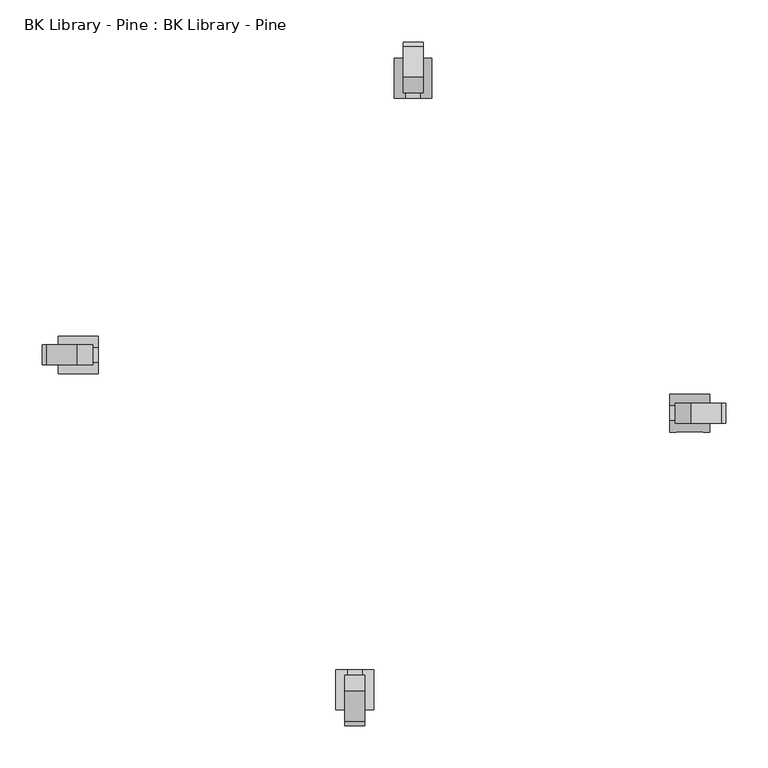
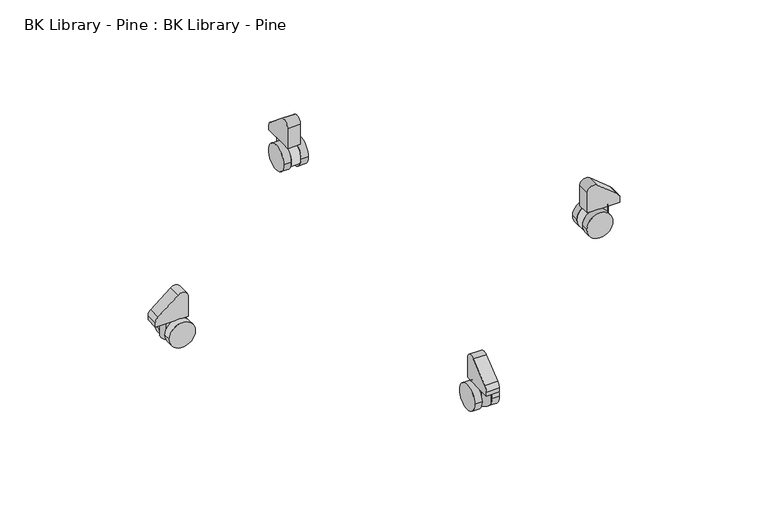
"""IFC4 building model written with IfcOpenShell, lengths in millimetres: furniture geometry, BK Library - Pine : BK Library - Pine."""

from ifc_helpers import new_model, si_unit, point, frame, frame_2d, origin, place, context, project, spatial, polyline, circle_curve, trimmed, segment, composite_curve, outline, extrude, source, transform, mapped, element, save
from ifc_brep_helpers import plane_surface, cylinder_surface, advanced_brep


def bk_library_pine_bk_library_pine_3ca1e0d4(model_context):
    return source(origin(), model_context, "Body", "SolidModel", [
        advanced_brep(
        [(-12.0, -387.0845712, 24.0), (-12.0, -341.0097124, 14.5818999), (-12.0, -339.0845712, 24.0), (-12.0, -359.165662, 47.6778831), (-25.5, -387.0845712, 24.0), (-25.5, -359.165662, 47.6778831), (-25.5, -339.0845712, 24.0), (-25.5, -341.0097124, 14.5818999)],
        [
            (0, 1, circle_curve(frame((-12.0, -363.0845712, 24.0), z_axis=(1.0, 0.0, 0.0), x_axis=(0.0, 1.0, 0.0)), 24.0)),
            (1, 2, circle_curve(frame((-12.0, -363.0845712, 24.0), z_axis=(1.0, 0.0, 0.0), x_axis=(0.0, 1.0, 0.0)), 24.0)),
            (2, 3, circle_curve(frame((-12.0, -363.0845712, 24.0), z_axis=(1.0, 0.0, 0.0), x_axis=(0.0, 1.0, 0.0)), 24.0)),
            (3, 0, circle_curve(frame((-12.0, -363.0845712, 24.0), z_axis=(1.0, 0.0, 0.0), x_axis=(0.0, 1.0, 0.0)), 24.0)),
            (4, 5, circle_curve(frame((-25.5, -363.0845712, 24.0), z_axis=(-1.0, 0.0, 0.0), x_axis=(0.0, 1.0, 0.0)), 24.0)),
            (5, 6, circle_curve(frame((-25.5, -363.0845712, 24.0), z_axis=(-1.0, 0.0, 0.0), x_axis=(0.0, 1.0, 0.0)), 24.0)),
            (6, 7, circle_curve(frame((-25.5, -363.0845712, 24.0), z_axis=(-1.0, 0.0, 0.0), x_axis=(0.0, 1.0, 0.0)), 24.0)),
            (7, 4, circle_curve(frame((-25.5, -363.0845712, 24.0), z_axis=(-1.0, 0.0, 0.0), x_axis=(0.0, 1.0, 0.0)), 24.0)),
            (0, 4),
            (6, 2),
        ],
        [
            plane_surface(frame((-12.0, -339.0845712, 24.0), z_axis=(1.0, 0.0, 0.0), x_axis=(0.0, 0.0, 1.0))),
            plane_surface(frame((-25.5, -339.0845712, 24.0), z_axis=(-1.0, 0.0, 0.0), x_axis=(0.0, 0.0, -1.0))),
            cylinder_surface(frame((-25.5, -363.0845712, 24.0), z_axis=(1.0, 0.0, 0.0), x_axis=(0.0, 1.0, 0.0)), 24.0),
        ],
        [
            (0, [[1, 2, 3, 4]]),
            (1, [[5, 6, 7, 8]]),
            (2, [[9, -8, -7, 10, -2, -1]]),
            (2, [[-9, -4, -3, -10, -6, -5]]),
        ],
    ),
        advanced_brep(
        [(-43.5, -387.0845712, 24.0), (-43.5, -341.0097124, 14.5818999), (-43.5, -339.0845712, 24.0), (-43.5, -359.165662, 47.6778831), (-57.0, -387.0845712, 24.0), (-57.0, -359.165662, 47.6778831), (-57.0, -339.0845712, 24.0), (-57.0, -341.0097124, 14.5818999)],
        [
            (0, 1, circle_curve(frame((-43.5, -363.0845712, 24.0), z_axis=(1.0, 0.0, 0.0), x_axis=(0.0, 1.0, 0.0)), 24.0)),
            (1, 2, circle_curve(frame((-43.5, -363.0845712, 24.0), z_axis=(1.0, 0.0, 0.0), x_axis=(0.0, 1.0, 0.0)), 24.0)),
            (2, 3, circle_curve(frame((-43.5, -363.0845712, 24.0), z_axis=(1.0, 0.0, 0.0), x_axis=(0.0, 1.0, 0.0)), 24.0)),
            (3, 0, circle_curve(frame((-43.5, -363.0845712, 24.0), z_axis=(1.0, 0.0, 0.0), x_axis=(0.0, 1.0, 0.0)), 24.0)),
            (4, 5, circle_curve(frame((-57.0, -363.0845712, 24.0), z_axis=(-1.0, 0.0, 0.0), x_axis=(0.0, 1.0, 0.0)), 24.0)),
            (5, 6, circle_curve(frame((-57.0, -363.0845712, 24.0), z_axis=(-1.0, 0.0, 0.0), x_axis=(0.0, 1.0, 0.0)), 24.0)),
            (6, 7, circle_curve(frame((-57.0, -363.0845712, 24.0), z_axis=(-1.0, 0.0, 0.0), x_axis=(0.0, 1.0, 0.0)), 24.0)),
            (7, 4, circle_curve(frame((-57.0, -363.0845712, 24.0), z_axis=(-1.0, 0.0, 0.0), x_axis=(0.0, 1.0, 0.0)), 24.0)),
            (0, 4),
            (6, 2),
        ],
        [
            plane_surface(frame((-43.5, -339.0845712, 24.0), z_axis=(1.0, 0.0, 0.0), x_axis=(0.0, 0.0, 1.0))),
            plane_surface(frame((-57.0, -339.0845712, 24.0), z_axis=(-1.0, 0.0, 0.0), x_axis=(0.0, 0.0, -1.0))),
            cylinder_surface(frame((-57.0, -363.0845712, 24.0), z_axis=(1.0, 0.0, 0.0), x_axis=(0.0, 1.0, 0.0)), 24.0),
        ],
        [
            (0, [[1, 2, 3, 4]]),
            (1, [[5, 6, 7, 8]]),
            (2, [[9, -8, -7, 10, -2, -1]]),
            (2, [[-9, -4, -3, -10, -6, -5]]),
        ],
    ),
        advanced_brep(
        [(-43.5, -384.4456511, 47.6778831), (-43.125, -385.4378078, 47.6778831), (-25.875, -385.4378078, 47.6778831), (-25.5, -384.4456511, 47.6778831), (-25.5, -359.165662, 47.6778831), (-43.5, -359.165662, 47.6778831), (-25.5, -384.4456511, 14.5818999), (-25.875, -385.4378078, 14.5818999), (-43.125, -385.4378078, 14.5818999), (-43.5, -384.4456511, 14.5818999), (-43.5, -341.0097124, 14.5818999), (-25.5, -341.0097124, 14.5818999)],
        [
            (0, 1, circle_curve(frame((-42.0, -384.4456511, 47.6778831), z_axis=(0.0, 0.0, 1.0), x_axis=(0.0, 1.0, 0.0)), 1.5)),
            (1, 2, circle_curve(frame((-34.5, -377.8312728, 47.6778831), z_axis=(0.0, 0.0, 1.0), x_axis=(-0.14388530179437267, 0.989594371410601, 0.0)), 11.5)),
            (2, 3, circle_curve(frame((-27.0, -384.4456511, 47.6778831), z_axis=(0.0, 0.0, 1.0), x_axis=(0.0, 1.0, 0.0)), 1.5)),
            (3, 4),
            (4, 5),
            (5, 0),
            (6, 7, circle_curve(frame((-27.0, -384.4456511, 14.5818999), z_axis=(0.0, 0.0, -1.0), x_axis=(0.0, 1.0, 0.0)), 1.5)),
            (7, 8, circle_curve(frame((-34.5, -377.8312728, 14.5818999), z_axis=(0.0, 0.0, -1.0), x_axis=(-0.14388530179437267, 0.989594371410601, 0.0)), 11.5)),
            (8, 9, circle_curve(frame((-42.0, -384.4456511, 14.5818999), z_axis=(0.0, 0.0, -1.0), x_axis=(0.0, 1.0, 0.0)), 1.5)),
            (9, 10),
            (10, 11),
            (11, 6),
            (9, 0),
            (5, 10, circle_curve(frame((-43.5, -363.0845712, 24.0), z_axis=(-1.0, 0.0, 0.0), x_axis=(0.0, 1.0, 0.0)), 24.0)),
            (1, 8),
            (7, 2),
            (3, 6),
            (11, 4, circle_curve(frame((-25.5, -363.0845712, 24.0), z_axis=(1.0, 0.0, 0.0), x_axis=(0.0, 1.0, 0.0)), 24.0)),
        ],
        [
            plane_surface(frame((-43.5, -384.9901833, 47.6778831), z_axis=(0.0, 0.0, 1.0), x_axis=(0.0, -1.0, 0.0))),
            plane_surface(frame((-43.5, -384.9901833, 14.5818999), z_axis=(0.0, 0.0, -1.0), x_axis=(0.0, 1.0, 0.0))),
            plane_surface(frame((-43.5, -338.3703709, 47.6778831), z_axis=(-1.0, 0.0, 0.0), x_axis=(0.0, 0.0, -1.0))),
            cylinder_surface(frame((-34.5, -377.8312728, 14.5818999), z_axis=(0.0, 0.0, 1.0000000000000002), x_axis=(-0.14388530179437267, 0.989594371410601, 0.0)), 11.5),
            plane_surface(frame((-25.5, -384.4456511, 47.6778831), z_axis=(1.0, 0.0, 0.0), x_axis=(0.0, 0.0, -1.0))),
            cylinder_surface(frame((-42.0, -384.4456511, 14.5818999), z_axis=(0.0, 0.0, 1.0), x_axis=(0.0, 1.0, 0.0)), 1.5),
            cylinder_surface(frame((-27.0, -384.4456511, 14.5818999), z_axis=(0.0, 0.0, 1.0), x_axis=(0.0, 1.0, 0.0)), 1.5),
            cylinder_surface(frame((-97.270464, -363.0845712, 24.0), z_axis=(-1.0, 0.0, 0.0), x_axis=(0.0, 1.0, 0.0)), 24.0),
        ],
        [
            (0, [[1, 2, 3, 4, 5, 6]]),
            (1, [[7, 8, 9, 10, 11, 12]]),
            (2, [[13, -6, 14, -10]]),
            (3, [[-2, 15, -8, 16]]),
            (4, [[17, -12, 18, -4]]),
            (5, [[-1, -13, -9, -15]]),
            (6, [[-3, -16, -7, -17]]),
            (7, [[-5, -18, -11, -14]]),
        ],
    ),
        advanced_brep(
        [(-23.0, -401.3539823, 65.3227941), (-23.0, -405.9999999, 55.5979035), (-23.0, -405.9997219, 47.6778831), (-23.0, -359.165662, 47.6778831), (-23.0, -346.0, 47.6778831), (-23.0, -346.0, 86.3778831), (-23.0, -364.4, 95.1687875), (-46.5, -401.3539823, 65.3227941), (-46.5, -364.4, 95.1687875), (-46.5, -345.9999999, 86.3778831), (-46.5, -346.0, 47.6778831), (-46.5, -359.165662, 47.6778831), (-46.5, -405.9997219, 47.6778831), (-46.5, -405.9999999, 55.5979035)],
        [
            (0, 1, circle_curve(frame((-23.0, -393.5, 55.5983424), z_axis=(1.0, 0.0, 0.0), x_axis=(0.0, 0.999999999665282, 2.587346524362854e-05)), 12.5)),
            (1, 2),
            (2, 3),
            (3, 4),
            (4, 5),
            (5, 6, circle_curve(frame((-23.0, -357.2999999, 86.3778831), z_axis=(1.0, 0.0, 0.0), x_axis=(0.0, 0.999999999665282, 2.5873465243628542e-05)), 11.3)),
            (6, 0),
            (7, 8),
            (8, 9, circle_curve(frame((-46.5, -357.2999999, 86.3778831), z_axis=(-1.0, 0.0, 0.0), x_axis=(0.0, 0.999999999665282, 2.5873465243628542e-05)), 11.3)),
            (9, 10),
            (10, 11),
            (11, 12),
            (12, 13),
            (13, 7, circle_curve(frame((-46.5, -393.5, 55.5983424), z_axis=(-1.0, 0.0, 0.0), x_axis=(0.0, 0.999999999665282, 2.587346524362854e-05)), 12.5)),
            (0, 7),
            (13, 1),
            (12, 2),
            (10, 4),
            (9, 5),
            (8, 6),
        ],
        [
            plane_surface(frame((-23.0, -381.0, 55.5986658), z_axis=(1.0000000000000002, 0.0, 0.0), x_axis=(0.0, -2.5873465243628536e-05, 0.999999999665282))),
            plane_surface(frame((-46.5, -381.0, 55.5986658), z_axis=(-1.0000000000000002, 0.0, 0.0), x_axis=(0.0, 2.5873465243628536e-05, -0.999999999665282))),
            cylinder_surface(frame((-46.5, -393.5, 55.5983424), z_axis=(1.0000000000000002, 0.0, 0.0), x_axis=(0.0, 0.999999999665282, 2.587346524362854e-05)), 12.5),
            plane_surface(frame((-23.0, -405.9999999, 55.5979035), z_axis=(0.0, -0.9999999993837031, -3.510831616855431e-05), x_axis=(-1.0, 0.0, 0.0))),
            plane_surface(frame((-23.0, -405.9997219, 47.6778831), z_axis=(0.0, 0.0, -1.0), x_axis=(-1.0, 0.0, 0.0))),
            plane_surface(frame((-23.0, -346.0, 47.6778831), z_axis=(0.0, 1.0, 0.0), x_axis=(-1.0, 0.0, 0.0))),
            cylinder_surface(frame((-46.5, -357.2999999, 86.3778831), z_axis=(1.0000000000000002, 0.0, 0.0), x_axis=(0.0, 0.999999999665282, 2.5873465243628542e-05)), 11.3),
            plane_surface(frame((-23.0, -364.4, 95.1687875), z_axis=(0.0, -0.6283185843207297, 0.7779561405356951), x_axis=(-1.0, 0.0, 0.0))),
        ],
        [
            (0, [[1, 2, 3, 4, 5, 6, 7]]),
            (1, [[8, 9, 10, 11, 12, 13, 14]]),
            (2, [[-1, 15, -14, 16]]),
            (3, [[-2, -16, -13, 17]]),
            (4, [[-17, -12, -11, 18, -4, -3]]),
            (5, [[-5, -18, -10, 19]]),
            (6, [[-6, -19, -9, 20]]),
            (7, [[-7, -20, -8, -15]]),
        ],
    ),
        advanced_brep(
        [(387.0845712, -12.0, 24.0), (341.0097124, -12.0, 14.5818999), (339.0845712, -12.0, 24.0), (359.165662, -12.0, 47.6778831), (387.0845712, -25.5, 24.0), (359.165662, -25.5, 47.6778831), (339.0845712, -25.5, 24.0), (341.0097124, -25.5, 14.5818999)],
        [
            (0, 1, circle_curve(frame((363.0845712, -12.0, 24.0), z_axis=(0.0, 1.0, 0.0), x_axis=(-1.0, 0.0, 0.0)), 24.0)),
            (1, 2, circle_curve(frame((363.0845712, -12.0, 24.0), z_axis=(0.0, 1.0, 0.0), x_axis=(-1.0, 0.0, 0.0)), 24.0)),
            (2, 3, circle_curve(frame((363.0845712, -12.0, 24.0), z_axis=(0.0, 1.0, 0.0), x_axis=(-1.0, 0.0, 0.0)), 24.0)),
            (3, 0, circle_curve(frame((363.0845712, -12.0, 24.0), z_axis=(0.0, 1.0, 0.0), x_axis=(-1.0, 0.0, 0.0)), 24.0)),
            (4, 5, circle_curve(frame((363.0845712, -25.5, 24.0), z_axis=(0.0, -1.0, 0.0), x_axis=(-1.0, 0.0, 0.0)), 24.0)),
            (5, 6, circle_curve(frame((363.0845712, -25.5, 24.0), z_axis=(0.0, -1.0, 0.0), x_axis=(-1.0, 0.0, 0.0)), 24.0)),
            (6, 7, circle_curve(frame((363.0845712, -25.5, 24.0), z_axis=(0.0, -1.0, 0.0), x_axis=(-1.0, 0.0, 0.0)), 24.0)),
            (7, 4, circle_curve(frame((363.0845712, -25.5, 24.0), z_axis=(0.0, -1.0, 0.0), x_axis=(-1.0, 0.0, 0.0)), 24.0)),
            (0, 4),
            (6, 2),
        ],
        [
            plane_surface(frame((339.0845712, -12.0, 24.0), z_axis=(0.0, 1.0, 0.0), x_axis=(0.0, 0.0, 1.0))),
            plane_surface(frame((339.0845712, -25.5, 24.0), z_axis=(0.0, -1.0, 0.0), x_axis=(0.0, 0.0, -1.0))),
            cylinder_surface(frame((363.0845712, -25.5, 24.0), z_axis=(0.0, 1.0, 0.0), x_axis=(-1.0, 0.0, 0.0)), 24.0),
        ],
        [
            (0, [[1, 2, 3, 4]]),
            (1, [[5, 6, 7, 8]]),
            (2, [[9, -8, -7, 10, -2, -1]]),
            (2, [[-9, -4, -3, -10, -6, -5]]),
        ],
    ),
        advanced_brep(
        [(387.0845712, -43.5, 24.0), (341.0097124, -43.5, 14.5818999), (339.0845712, -43.5, 24.0), (359.165662, -43.5, 47.6778831), (387.0845712, -57.0, 24.0), (359.165662, -57.0, 47.6778831), (339.0845712, -57.0, 24.0), (341.0097124, -57.0, 14.5818999)],
        [
            (0, 1, circle_curve(frame((363.0845712, -43.5, 24.0), z_axis=(0.0, 1.0, 0.0), x_axis=(-1.0, 0.0, 0.0)), 24.0)),
            (1, 2, circle_curve(frame((363.0845712, -43.5, 24.0), z_axis=(0.0, 1.0, 0.0), x_axis=(-1.0, 0.0, 0.0)), 24.0)),
            (2, 3, circle_curve(frame((363.0845712, -43.5, 24.0), z_axis=(0.0, 1.0, 0.0), x_axis=(-1.0, 0.0, 0.0)), 24.0)),
            (3, 0, circle_curve(frame((363.0845712, -43.5, 24.0), z_axis=(0.0, 1.0, 0.0), x_axis=(-1.0, 0.0, 0.0)), 24.0)),
            (4, 5, circle_curve(frame((363.0845712, -57.0, 24.0), z_axis=(0.0, -1.0, 0.0), x_axis=(-1.0, 0.0, 0.0)), 24.0)),
            (5, 6, circle_curve(frame((363.0845712, -57.0, 24.0), z_axis=(0.0, -1.0, 0.0), x_axis=(-1.0, 0.0, 0.0)), 24.0)),
            (6, 7, circle_curve(frame((363.0845712, -57.0, 24.0), z_axis=(0.0, -1.0, 0.0), x_axis=(-1.0, 0.0, 0.0)), 24.0)),
            (7, 4, circle_curve(frame((363.0845712, -57.0, 24.0), z_axis=(0.0, -1.0, 0.0), x_axis=(-1.0, 0.0, 0.0)), 24.0)),
            (0, 4),
            (6, 2),
        ],
        [
            plane_surface(frame((339.0845712, -43.5, 24.0), z_axis=(0.0, 1.0, 0.0), x_axis=(0.0, 0.0, 1.0))),
            plane_surface(frame((339.0845712, -57.0, 24.0), z_axis=(0.0, -1.0, 0.0), x_axis=(0.0, 0.0, -1.0))),
            cylinder_surface(frame((363.0845712, -57.0, 24.0), z_axis=(0.0, 1.0, 0.0), x_axis=(-1.0, 0.0, 0.0)), 24.0),
        ],
        [
            (0, [[1, 2, 3, 4]]),
            (1, [[5, 6, 7, 8]]),
            (2, [[9, -8, -7, 10, -2, -1]]),
            (2, [[-9, -4, -3, -10, -6, -5]]),
        ],
    ),
        advanced_brep(
        [(384.4456511, -43.5, 47.6778831), (385.4378078, -43.125, 47.6778831), (385.4378078, -25.875, 47.6778831), (384.4456511, -25.5, 47.6778831), (359.165662, -25.5, 47.6778831), (359.165662, -43.5, 47.6778831), (384.4456511, -25.5, 14.5818999), (385.4378078, -25.875, 14.5818999), (385.4378078, -43.125, 14.5818999), (384.4456511, -43.5, 14.5818999), (341.0097124, -43.5, 14.5818999), (341.0097124, -25.5, 14.5818999)],
        [
            (0, 1, circle_curve(frame((384.4456511, -42.0, 47.6778831), z_axis=(0.0, 0.0, 1.0), x_axis=(-1.0, 0.0, 0.0)), 1.5)),
            (1, 2, circle_curve(frame((377.8312728, -34.5, 47.6778831), z_axis=(0.0, 0.0, 1.0), x_axis=(-0.9895943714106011, -0.14388530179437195, 0.0)), 11.5)),
            (2, 3, circle_curve(frame((384.4456511, -27.0, 47.6778831), z_axis=(0.0, 0.0, 1.0), x_axis=(-1.0, 0.0, 0.0)), 1.5)),
            (3, 4),
            (4, 5),
            (5, 0),
            (6, 7, circle_curve(frame((384.4456511, -27.0, 14.5818999), z_axis=(0.0, 0.0, -1.0), x_axis=(-1.0, 0.0, 0.0)), 1.5)),
            (7, 8, circle_curve(frame((377.8312728, -34.5, 14.5818999), z_axis=(0.0, 0.0, -1.0), x_axis=(-0.9895943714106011, -0.14388530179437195, 0.0)), 11.5)),
            (8, 9, circle_curve(frame((384.4456511, -42.0, 14.5818999), z_axis=(0.0, 0.0, -1.0), x_axis=(-1.0, 0.0, 0.0)), 1.5)),
            (9, 10),
            (10, 11),
            (11, 6),
            (9, 0),
            (5, 10, circle_curve(frame((363.0845712, -43.5, 24.0), z_axis=(0.0, -1.0, 0.0), x_axis=(-1.0, 0.0, 0.0)), 24.0)),
            (1, 8),
            (7, 2),
            (3, 6),
            (11, 4, circle_curve(frame((363.0845712, -25.5, 24.0), z_axis=(0.0, 1.0, 0.0), x_axis=(-1.0, 0.0, 0.0)), 24.0)),
        ],
        [
            plane_surface(frame((384.9901833, -43.5, 47.6778831), z_axis=(0.0, 0.0, 1.0), x_axis=(1.0, 0.0, 0.0))),
            plane_surface(frame((384.9901833, -43.5, 14.5818999), z_axis=(0.0, 0.0, -1.0), x_axis=(-1.0, 0.0, 0.0))),
            plane_surface(frame((338.3703709, -43.5, 47.6778831), z_axis=(0.0, -1.0, 0.0), x_axis=(0.0, 0.0, -1.0))),
            cylinder_surface(frame((377.8312728, -34.5, 14.5818999), z_axis=(0.0, 0.0, 1.0000000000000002), x_axis=(-0.9895943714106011, -0.14388530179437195, 0.0)), 11.5),
            plane_surface(frame((384.4456511, -25.5, 47.6778831), z_axis=(0.0, 1.0, 0.0), x_axis=(0.0, 0.0, -1.0))),
            cylinder_surface(frame((384.4456511, -42.0, 14.5818999), z_axis=(0.0, 0.0, 1.0), x_axis=(-1.0, 0.0, 0.0)), 1.5),
            cylinder_surface(frame((384.4456511, -27.0, 14.5818999), z_axis=(0.0, 0.0, 1.0), x_axis=(-1.0, 0.0, 0.0)), 1.5),
            cylinder_surface(frame((363.0845712, -97.270464, 24.0), z_axis=(0.0, -1.0, 0.0), x_axis=(-1.0, 0.0, 0.0)), 24.0),
        ],
        [
            (0, [[1, 2, 3, 4, 5, 6]]),
            (1, [[7, 8, 9, 10, 11, 12]]),
            (2, [[13, -6, 14, -10]]),
            (3, [[-2, 15, -8, 16]]),
            (4, [[17, -12, 18, -4]]),
            (5, [[-1, -13, -9, -15]]),
            (6, [[-3, -16, -7, -17]]),
            (7, [[-5, -18, -11, -14]]),
        ],
    ),
        advanced_brep(
        [(401.3539823, -23.0, 65.3227941), (405.9999999, -23.0, 55.5979035), (405.9997219, -23.0, 47.6778831), (359.165662, -23.0, 47.6778831), (346.0, -23.0, 47.6778831), (346.0, -23.0, 86.3778831), (364.4, -23.0, 95.1687875), (401.3539823, -46.5, 65.3227941), (364.4, -46.5, 95.1687875), (345.9999999, -46.5, 86.3778831), (346.0, -46.5, 47.6778831), (359.165662, -46.5, 47.6778831), (405.9997219, -46.5, 47.6778831), (405.9999999, -46.5, 55.5979035)],
        [
            (0, 1, circle_curve(frame((393.5, -23.0, 55.5983424), z_axis=(0.0, 1.0, 0.0), x_axis=(-0.999999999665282, 0.0, 2.587346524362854e-05)), 12.5)),
            (1, 2),
            (2, 3),
            (3, 4),
            (4, 5),
            (5, 6, circle_curve(frame((357.2999999, -23.0, 86.3778831), z_axis=(0.0, 1.0, 0.0), x_axis=(-0.999999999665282, 0.0, 2.5873465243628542e-05)), 11.3)),
            (6, 0),
            (7, 8),
            (8, 9, circle_curve(frame((357.2999999, -46.5, 86.3778831), z_axis=(0.0, -1.0, 0.0), x_axis=(-0.999999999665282, 0.0, 2.5873465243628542e-05)), 11.3)),
            (9, 10),
            (10, 11),
            (11, 12),
            (12, 13),
            (13, 7, circle_curve(frame((393.5, -46.5, 55.5983424), z_axis=(0.0, -1.0, 0.0), x_axis=(-0.999999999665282, 0.0, 2.587346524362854e-05)), 12.5)),
            (0, 7),
            (13, 1),
            (12, 2),
            (10, 4),
            (9, 5),
            (8, 6),
        ],
        [
            plane_surface(frame((381.0, -23.0, 55.5986658), z_axis=(0.0, 1.0000000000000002, 0.0), x_axis=(2.5873465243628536e-05, 0.0, 0.999999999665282))),
            plane_surface(frame((381.0, -46.5, 55.5986658), z_axis=(0.0, -1.0000000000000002, 0.0), x_axis=(-2.5873465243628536e-05, 0.0, -0.999999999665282))),
            cylinder_surface(frame((393.5, -46.5, 55.5983424), z_axis=(0.0, 1.0000000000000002, 0.0), x_axis=(-0.999999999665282, 0.0, 2.587346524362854e-05)), 12.5),
            plane_surface(frame((405.9999999, -23.0, 55.5979035), z_axis=(0.9999999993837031, 0.0, -3.510831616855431e-05), x_axis=(0.0, -1.0, 0.0))),
            plane_surface(frame((405.9997219, -23.0, 47.6778831), z_axis=(0.0, 0.0, -1.0), x_axis=(0.0, -1.0, 0.0))),
            plane_surface(frame((346.0, -23.0, 47.6778831), z_axis=(-1.0, 0.0, 0.0), x_axis=(0.0, -1.0, 0.0))),
            cylinder_surface(frame((357.2999999, -46.5, 86.3778831), z_axis=(0.0, 1.0000000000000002, 0.0), x_axis=(-0.999999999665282, 0.0, 2.5873465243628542e-05)), 11.3),
            plane_surface(frame((364.4, -23.0, 95.1687875), z_axis=(0.6283185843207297, 0.0, 0.7779561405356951), x_axis=(0.0, -1.0, 0.0))),
        ],
        [
            (0, [[1, 2, 3, 4, 5, 6, 7]]),
            (1, [[8, 9, 10, 11, 12, 13, 14]]),
            (2, [[-1, 15, -14, 16]]),
            (3, [[-2, -16, -13, 17]]),
            (4, [[-17, -12, -11, 18, -4, -3]]),
            (5, [[-5, -18, -10, 19]]),
            (6, [[-6, -19, -9, 20]]),
            (7, [[-7, -20, -8, -15]]),
        ],
    ),
        advanced_brep(
        [(12.0, 387.0845712, 24.0), (12.0, 341.0097124, 14.5818999), (12.0, 339.0845712, 24.0), (12.0, 359.165662, 47.6778831), (25.5, 387.0845712, 24.0), (25.5, 359.165662, 47.6778831), (25.5, 339.0845712, 24.0), (25.5, 341.0097124, 14.5818999)],
        [
            (0, 1, circle_curve(frame((12.0, 363.0845712, 24.0), z_axis=(-1.0, 0.0, 0.0), x_axis=(0.0, -1.0, 0.0)), 24.0)),
            (1, 2, circle_curve(frame((12.0, 363.0845712, 24.0), z_axis=(-1.0, 0.0, 0.0), x_axis=(0.0, -1.0, 0.0)), 24.0)),
            (2, 3, circle_curve(frame((12.0, 363.0845712, 24.0), z_axis=(-1.0, 0.0, 0.0), x_axis=(0.0, -1.0, 0.0)), 24.0)),
            (3, 0, circle_curve(frame((12.0, 363.0845712, 24.0), z_axis=(-1.0, 0.0, 0.0), x_axis=(0.0, -1.0, 0.0)), 24.0)),
            (4, 5, circle_curve(frame((25.5, 363.0845712, 24.0), z_axis=(1.0, 0.0, 0.0), x_axis=(0.0, -1.0, 0.0)), 24.0)),
            (5, 6, circle_curve(frame((25.5, 363.0845712, 24.0), z_axis=(1.0, 0.0, 0.0), x_axis=(0.0, -1.0, 0.0)), 24.0)),
            (6, 7, circle_curve(frame((25.5, 363.0845712, 24.0), z_axis=(1.0, 0.0, 0.0), x_axis=(0.0, -1.0, 0.0)), 24.0)),
            (7, 4, circle_curve(frame((25.5, 363.0845712, 24.0), z_axis=(1.0, 0.0, 0.0), x_axis=(0.0, -1.0, 0.0)), 24.0)),
            (0, 4),
            (6, 2),
        ],
        [
            plane_surface(frame((12.0, 339.0845712, 24.0), z_axis=(-1.0, 0.0, 0.0), x_axis=(0.0, 0.0, 1.0))),
            plane_surface(frame((25.5, 339.0845712, 24.0), z_axis=(1.0, 0.0, 0.0), x_axis=(0.0, 0.0, -1.0))),
            cylinder_surface(frame((25.5, 363.0845712, 24.0), z_axis=(-1.0, 0.0, 0.0), x_axis=(0.0, -1.0, 0.0)), 24.0),
        ],
        [
            (0, [[1, 2, 3, 4]]),
            (1, [[5, 6, 7, 8]]),
            (2, [[9, -8, -7, 10, -2, -1]]),
            (2, [[-9, -4, -3, -10, -6, -5]]),
        ],
    ),
        advanced_brep(
        [(43.5, 387.0845712, 24.0), (43.5, 341.0097124, 14.5818999), (43.5, 339.0845712, 24.0), (43.5, 359.165662, 47.6778831), (57.0, 387.0845712, 24.0), (57.0, 359.165662, 47.6778831), (57.0, 339.0845712, 24.0), (57.0, 341.0097124, 14.5818999)],
        [
            (0, 1, circle_curve(frame((43.5, 363.0845712, 24.0), z_axis=(-1.0, 0.0, 0.0), x_axis=(0.0, -1.0, 0.0)), 24.0)),
            (1, 2, circle_curve(frame((43.5, 363.0845712, 24.0), z_axis=(-1.0, 0.0, 0.0), x_axis=(0.0, -1.0, 0.0)), 24.0)),
            (2, 3, circle_curve(frame((43.5, 363.0845712, 24.0), z_axis=(-1.0, 0.0, 0.0), x_axis=(0.0, -1.0, 0.0)), 24.0)),
            (3, 0, circle_curve(frame((43.5, 363.0845712, 24.0), z_axis=(-1.0, 0.0, 0.0), x_axis=(0.0, -1.0, 0.0)), 24.0)),
            (4, 5, circle_curve(frame((57.0, 363.0845712, 24.0), z_axis=(1.0, 0.0, 0.0), x_axis=(0.0, -1.0, 0.0)), 24.0)),
            (5, 6, circle_curve(frame((57.0, 363.0845712, 24.0), z_axis=(1.0, 0.0, 0.0), x_axis=(0.0, -1.0, 0.0)), 24.0)),
            (6, 7, circle_curve(frame((57.0, 363.0845712, 24.0), z_axis=(1.0, 0.0, 0.0), x_axis=(0.0, -1.0, 0.0)), 24.0)),
            (7, 4, circle_curve(frame((57.0, 363.0845712, 24.0), z_axis=(1.0, 0.0, 0.0), x_axis=(0.0, -1.0, 0.0)), 24.0)),
            (0, 4),
            (6, 2),
        ],
        [
            plane_surface(frame((43.5, 339.0845712, 24.0), z_axis=(-1.0, 0.0, 0.0), x_axis=(0.0, 0.0, 1.0))),
            plane_surface(frame((57.0, 339.0845712, 24.0), z_axis=(1.0, 0.0, 0.0), x_axis=(0.0, 0.0, -1.0))),
            cylinder_surface(frame((57.0, 363.0845712, 24.0), z_axis=(-1.0, 0.0, 0.0), x_axis=(0.0, -1.0, 0.0)), 24.0),
        ],
        [
            (0, [[1, 2, 3, 4]]),
            (1, [[5, 6, 7, 8]]),
            (2, [[9, -8, -7, 10, -2, -1]]),
            (2, [[-9, -4, -3, -10, -6, -5]]),
        ],
    ),
        advanced_brep(
        [(43.5, 384.4456511, 47.6778831), (43.125, 385.4378078, 47.6778831), (25.875, 385.4378078, 47.6778831), (25.5, 384.4456511, 47.6778831), (25.5, 359.165662, 47.6778831), (43.5, 359.165662, 47.6778831), (25.5, 384.4456511, 14.5818999), (25.875, 385.4378078, 14.5818999), (43.125, 385.4378078, 14.5818999), (43.5, 384.4456511, 14.5818999), (43.5, 341.0097124, 14.5818999), (25.5, 341.0097124, 14.5818999)],
        [
            (0, 1, circle_curve(frame((42.0, 384.4456511, 47.6778831), z_axis=(0.0, 0.0, 1.0), x_axis=(0.0, -1.0, 0.0)), 1.5)),
            (1, 2, circle_curve(frame((34.5, 377.8312728, 47.6778831), z_axis=(0.0, 0.0, 1.0), x_axis=(0.14388530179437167, -0.9895943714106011, 0.0)), 11.5)),
            (2, 3, circle_curve(frame((27.0, 384.4456511, 47.6778831), z_axis=(0.0, 0.0, 1.0), x_axis=(0.0, -1.0, 0.0)), 1.5)),
            (3, 4),
            (4, 5),
            (5, 0),
            (6, 7, circle_curve(frame((27.0, 384.4456511, 14.5818999), z_axis=(0.0, 0.0, -1.0), x_axis=(0.0, -1.0, 0.0)), 1.5)),
            (7, 8, circle_curve(frame((34.5, 377.8312728, 14.5818999), z_axis=(0.0, 0.0, -1.0), x_axis=(0.14388530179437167, -0.9895943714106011, 0.0)), 11.5)),
            (8, 9, circle_curve(frame((42.0, 384.4456511, 14.5818999), z_axis=(0.0, 0.0, -1.0), x_axis=(0.0, -1.0, 0.0)), 1.5)),
            (9, 10),
            (10, 11),
            (11, 6),
            (9, 0),
            (5, 10, circle_curve(frame((43.5, 363.0845712, 24.0), z_axis=(1.0, 0.0, 0.0), x_axis=(0.0, -1.0, 0.0)), 24.0)),
            (1, 8),
            (7, 2),
            (3, 6),
            (11, 4, circle_curve(frame((25.5, 363.0845712, 24.0), z_axis=(-1.0, 0.0, 0.0), x_axis=(0.0, -1.0, 0.0)), 24.0)),
        ],
        [
            plane_surface(frame((43.5, 384.9901833, 47.6778831), z_axis=(0.0, 0.0, 1.0), x_axis=(0.0, 1.0, 0.0))),
            plane_surface(frame((43.5, 384.9901833, 14.5818999), z_axis=(0.0, 0.0, -1.0), x_axis=(0.0, -1.0, 0.0))),
            plane_surface(frame((43.5, 338.3703709, 47.6778831), z_axis=(1.0, 0.0, 0.0), x_axis=(0.0, 0.0, -1.0))),
            cylinder_surface(frame((34.5, 377.8312728, 14.5818999), z_axis=(0.0, 0.0, 1.0000000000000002), x_axis=(0.14388530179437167, -0.9895943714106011, 0.0)), 11.5),
            plane_surface(frame((25.5, 384.4456511, 47.6778831), z_axis=(-1.0, 0.0, 0.0), x_axis=(0.0, 0.0, -1.0))),
            cylinder_surface(frame((42.0, 384.4456511, 14.5818999), z_axis=(0.0, 0.0, 1.0), x_axis=(0.0, -1.0, 0.0)), 1.5),
            cylinder_surface(frame((27.0, 384.4456511, 14.5818999), z_axis=(0.0, 0.0, 1.0), x_axis=(0.0, -1.0, 0.0)), 1.5),
            cylinder_surface(frame((97.270464, 363.0845712, 24.0), z_axis=(1.0, 0.0, 0.0), x_axis=(0.0, -1.0, 0.0)), 24.0),
        ],
        [
            (0, [[1, 2, 3, 4, 5, 6]]),
            (1, [[7, 8, 9, 10, 11, 12]]),
            (2, [[13, -6, 14, -10]]),
            (3, [[-2, 15, -8, 16]]),
            (4, [[17, -12, 18, -4]]),
            (5, [[-1, -13, -9, -15]]),
            (6, [[-3, -16, -7, -17]]),
            (7, [[-5, -18, -11, -14]]),
        ],
    ),
        advanced_brep(
        [(23.0, 401.3539823, 65.3227941), (23.0, 405.9999999, 55.5979035), (23.0, 405.9997219, 47.6778831), (23.0, 359.165662, 47.6778831), (23.0, 346.0, 47.6778831), (23.0, 346.0, 86.3778831), (23.0, 364.4, 95.1687875), (46.5, 401.3539823, 65.3227941), (46.5, 364.4, 95.1687875), (46.5, 345.9999999, 86.3778831), (46.5, 346.0, 47.6778831), (46.5, 359.165662, 47.6778831), (46.5, 405.9997219, 47.6778831), (46.5, 405.9999999, 55.5979035)],
        [
            (0, 1, circle_curve(frame((23.0, 393.5, 55.5983424), z_axis=(-1.0, 0.0, 0.0), x_axis=(0.0, -0.999999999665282, 2.587346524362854e-05)), 12.5)),
            (1, 2),
            (2, 3),
            (3, 4),
            (4, 5),
            (5, 6, circle_curve(frame((23.0, 357.2999999, 86.3778831), z_axis=(-1.0, 0.0, 0.0), x_axis=(0.0, -0.999999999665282, 2.5873465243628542e-05)), 11.3)),
            (6, 0),
            (7, 8),
            (8, 9, circle_curve(frame((46.5, 357.2999999, 86.3778831), z_axis=(1.0, 0.0, 0.0), x_axis=(0.0, -0.999999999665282, 2.5873465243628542e-05)), 11.3)),
            (9, 10),
            (10, 11),
            (11, 12),
            (12, 13),
            (13, 7, circle_curve(frame((46.5, 393.5, 55.5983424), z_axis=(1.0, 0.0, 0.0), x_axis=(0.0, -0.999999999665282, 2.587346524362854e-05)), 12.5)),
            (0, 7),
            (13, 1),
            (12, 2),
            (10, 4),
            (9, 5),
            (8, 6),
        ],
        [
            plane_surface(frame((23.0, 381.0, 55.5986658), z_axis=(-1.0000000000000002, 0.0, 0.0), x_axis=(0.0, 2.5873465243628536e-05, 0.999999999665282))),
            plane_surface(frame((46.5, 381.0, 55.5986658), z_axis=(1.0000000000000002, 0.0, 0.0), x_axis=(0.0, -2.5873465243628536e-05, -0.999999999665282))),
            cylinder_surface(frame((46.5, 393.5, 55.5983424), z_axis=(-1.0000000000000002, 0.0, 0.0), x_axis=(0.0, -0.999999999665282, 2.587346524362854e-05)), 12.5),
            plane_surface(frame((23.0, 405.9999999, 55.5979035), z_axis=(0.0, 0.9999999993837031, -3.510831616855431e-05), x_axis=(1.0, 0.0, 0.0))),
            plane_surface(frame((23.0, 405.9997219, 47.6778831), z_axis=(0.0, 0.0, -1.0), x_axis=(1.0, 0.0, 0.0))),
            plane_surface(frame((23.0, 346.0, 47.6778831), z_axis=(0.0, -1.0, 0.0), x_axis=(1.0, 0.0, 0.0))),
            cylinder_surface(frame((46.5, 357.2999999, 86.3778831), z_axis=(-1.0000000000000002, 0.0, 0.0), x_axis=(0.0, -0.999999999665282, 2.5873465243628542e-05)), 11.3),
            plane_surface(frame((23.0, 364.4, 95.1687875), z_axis=(0.0, 0.6283185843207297, 0.7779561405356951), x_axis=(1.0, 0.0, 0.0))),
        ],
        [
            (0, [[1, 2, 3, 4, 5, 6, 7]]),
            (1, [[8, 9, 10, 11, 12, 13, 14]]),
            (2, [[-1, 15, -14, 16]]),
            (3, [[-2, -16, -13, 17]]),
            (4, [[-17, -12, -11, 18, -4, -3]]),
            (5, [[-5, -18, -10, 19]]),
            (6, [[-6, -19, -9, 20]]),
            (7, [[-7, -20, -8, -15]]),
        ],
    ),
        extrude(outline(composite_curve([segment(trimmed(circle_curve(frame_2d((24.0, -363.0845712)), 24.0), [point((24.0, -387.0845712))], [point((24.0, -339.0845712))], False, "CARTESIAN"), True, "CONTINUOUS"), segment(trimmed(circle_curve(frame_2d((24.0, -363.0845712)), 24.0), [point((24.0, -339.0845712))], [point((24.0, -387.0845712))], False, "CARTESIAN"), True, "CONTINUOUS")], self_intersect=False)), frame((0.0, 12.0, 0.0), z_axis=(0.0, 1.0, 0.0), x_axis=(0.0, 0.0, 1.0)), (0.0, 0.0, 1.0), 13.5),
        extrude(outline(composite_curve([segment(trimmed(circle_curve(frame_2d((24.0, -363.0845712)), 24.0), [point((24.0, -387.0845712))], [point((24.0, -339.0845712))], False, "CARTESIAN"), True, "CONTINUOUS"), segment(trimmed(circle_curve(frame_2d((24.0, -363.0845712)), 24.0), [point((24.0, -339.0845712))], [point((24.0, -387.0845712))], False, "CARTESIAN"), True, "CONTINUOUS")], self_intersect=False)), frame((0.0, 43.5, 0.0), z_axis=(0.0, 1.0, 0.0), x_axis=(0.0, 0.0, 1.0)), (0.0, 0.0, 1.0), 13.5),
        extrude(outline(composite_curve([segment(trimmed(circle_curve(frame_2d((55.5983424, -393.5)), 12.5), [point((65.3227941, -401.3539823))], [point((55.5979035, -405.9999999))], False, "CARTESIAN"), True, "CONTINUOUS"), segment(polyline([(55.5979035, -405.9999999), (47.6778831, -405.9997219), (47.6778831, -346.0), (86.3778831, -346.0)]), True, "CONTINUOUS"), segment(trimmed(circle_curve(frame_2d((86.3778831, -357.2999999)), 11.3), [point((86.3778831, -346.0))], [point((95.1687875, -364.4))], False, "CARTESIAN"), True, "CONTINUOUS"), segment(polyline([(95.1687875, -364.4), (65.3227941, -401.3539823)]), True, "CONTINUOUS")], self_intersect=False)), frame((0.0, 23.0, 0.0), z_axis=(0.0, 1.0, 0.0), x_axis=(0.0, 0.0, 1.0)), (0.0, 0.0, 1.0), 23.5),
        advanced_brep(
        [(-384.4456511, 43.5, 47.6778831), (-385.4378078, 43.125, 47.6778831), (-385.4378078, 25.875, 47.6778831), (-384.4456511, 25.5, 47.6778831), (-359.165662, 25.5, 47.6778831), (-359.165662, 43.5, 47.6778831), (-384.4456511, 25.5, 14.5818999), (-385.4378078, 25.875, 14.5818999), (-385.4378078, 43.125, 14.5818999), (-384.4456511, 43.5, 14.5818999), (-341.0097124, 43.5, 14.5818999), (-341.0097124, 25.5, 14.5818999)],
        [
            (0, 1, circle_curve(frame((-384.4456511, 42.0, 47.6778831), z_axis=(0.0, 0.0, 1.0), x_axis=(1.0, 0.0, 0.0)), 1.5)),
            (1, 2, circle_curve(frame((-377.8312728, 34.5, 47.6778831), z_axis=(0.0, 0.0, 1.0), x_axis=(0.989594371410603, 0.14388530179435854, 0.0)), 11.5)),
            (2, 3, circle_curve(frame((-384.4456511, 27.0, 47.6778831), z_axis=(0.0, 0.0, 1.0), x_axis=(1.0, 0.0, 0.0)), 1.5)),
            (3, 4),
            (4, 5),
            (5, 0),
            (6, 7, circle_curve(frame((-384.4456511, 27.0, 14.5818999), z_axis=(0.0, 0.0, -1.0), x_axis=(1.0, 0.0, 0.0)), 1.5)),
            (7, 8, circle_curve(frame((-377.8312728, 34.5, 14.5818999), z_axis=(0.0, 0.0, -1.0), x_axis=(0.989594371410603, 0.14388530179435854, 0.0)), 11.5)),
            (8, 9, circle_curve(frame((-384.4456511, 42.0, 14.5818999), z_axis=(0.0, 0.0, -1.0), x_axis=(1.0, 0.0, 0.0)), 1.5)),
            (9, 10),
            (10, 11),
            (11, 6),
            (9, 0),
            (5, 10, circle_curve(frame((-363.0845712, 43.5, 24.0), z_axis=(0.0, 1.0, 0.0), x_axis=(1.0, 0.0, 0.0)), 24.0)),
            (1, 8),
            (7, 2),
            (3, 6),
            (11, 4, circle_curve(frame((-363.0845712, 25.5, 24.0), z_axis=(0.0, -1.0, 0.0), x_axis=(1.0, 0.0, 0.0)), 24.0)),
        ],
        [
            plane_surface(frame((-384.9901833, 43.5, 47.6778831), z_axis=(0.0, 0.0, 1.0), x_axis=(-1.0, 0.0, 0.0))),
            plane_surface(frame((-384.9901833, 43.5, 14.5818999), z_axis=(0.0, 0.0, -1.0), x_axis=(1.0, 0.0, 0.0))),
            plane_surface(frame((-338.3703709, 43.5, 47.6778831), z_axis=(0.0, 1.0, 0.0), x_axis=(0.0, 0.0, -1.0))),
            cylinder_surface(frame((-377.8312728, 34.5, 14.5818999), z_axis=(0.0, 0.0, 1.0000000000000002), x_axis=(0.989594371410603, 0.14388530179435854, 0.0)), 11.5),
            plane_surface(frame((-384.4456511, 25.5, 47.6778831), z_axis=(0.0, -1.0, 0.0), x_axis=(0.0, 0.0, -1.0))),
            cylinder_surface(frame((-384.4456511, 42.0, 14.5818999), z_axis=(0.0, 0.0, 1.0), x_axis=(1.0, 0.0, 0.0)), 1.5),
            cylinder_surface(frame((-384.4456511, 27.0, 14.5818999), z_axis=(0.0, 0.0, 1.0), x_axis=(1.0, 0.0, 0.0)), 1.5),
            cylinder_surface(frame((-363.0845712, 97.270464, 24.0), z_axis=(0.0, 1.0, 0.0), x_axis=(1.0, 0.0, 0.0)), 24.0),
        ],
        [
            (0, [[1, 2, 3, 4, 5, 6]]),
            (1, [[7, 8, 9, 10, 11, 12]]),
            (2, [[13, -6, 14, -10]]),
            (3, [[-2, 15, -8, 16]]),
            (4, [[17, -12, 18, -4]]),
            (5, [[-1, -13, -9, -15]]),
            (6, [[-3, -16, -7, -17]]),
            (7, [[-5, -18, -11, -14]]),
        ],
    ),
    ])


if __name__ == "__main__":
    model = new_model("IFC4")
    model_context = context("Model", 3, world=origin())
    ifc_project = project(units=[si_unit("LENGTHUNIT", "METRE", prefix="MILLI")], contexts=[model_context])
    site = spatial("IfcSite", under=ifc_project)
    building = spatial("IfcBuilding", under=site)
    placement = place(None, origin())
    bk_library_pine_bk_library_pine_shape = bk_library_pine_bk_library_pine_3ca1e0d4(model_context)
    element("IfcFurniture", 1, ObjectType="BK Library - Pine : BK Library - Pine", at=placement, inside=building, context=model_context, shape_type="MappedRepresentation", body=[
        mapped(bk_library_pine_bk_library_pine_shape, transform((0.0, 0.0, 0.0), x_axis=(1.0, 0.0, 0.0), y_axis=(0.0, 1.0, 0.0), z_axis=(0.0, 0.0, 1.0))),
    ])
    save(model, "model.ifc")
